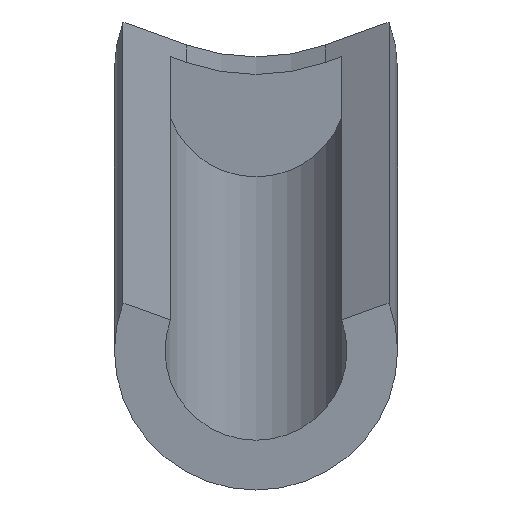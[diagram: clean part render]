
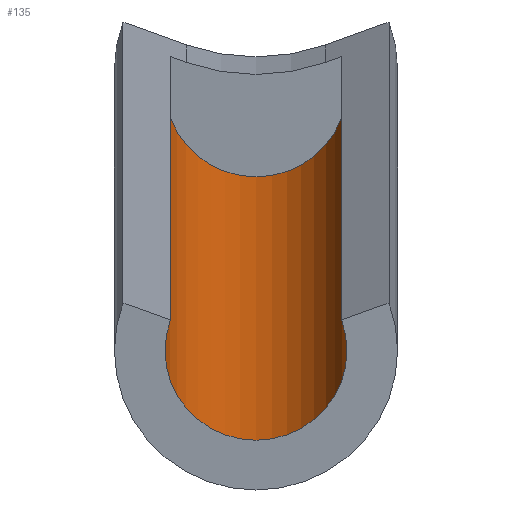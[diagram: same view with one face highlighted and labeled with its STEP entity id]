
A CAD part, left-side view. The second image highlights one B-rep face of the part: STEP entity #135.
In plain terms, the highlighted cylindrical face has radius 4.5 mm (diameter 9 mm), a partial arc.
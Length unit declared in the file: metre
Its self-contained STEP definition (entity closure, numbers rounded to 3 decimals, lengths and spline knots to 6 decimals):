
#14=CIRCLE('',#159,0.0045);
#15=CIRCLE('',#160,0.0045);
#19=CYLINDRICAL_SURFACE('',#158,0.0045);
#37=ORIENTED_EDGE('',*,*,#71,.F.);
#38=ORIENTED_EDGE('',*,*,#70,.T.);
#39=ORIENTED_EDGE('',*,*,#72,.F.);
#40=ORIENTED_EDGE('',*,*,#60,.F.);
#60=EDGE_CURVE('',#78,#79,#90,.T.);
#70=EDGE_CURVE('',#84,#86,#98,.T.);
#71=EDGE_CURVE('',#84,#78,#14,.T.);
#72=EDGE_CURVE('',#79,#86,#15,.F.);
#78=VERTEX_POINT('',#217);
#79=VERTEX_POINT('',#219);
#84=VERTEX_POINT('',#232);
#86=VERTEX_POINT('',#237);
#90=LINE('',#218,#102);
#98=LINE('',#238,#110);
#102=VECTOR('',#174,1.);
#110=VECTOR('',#190,1.);
#114=EDGE_LOOP('',(#37,#38,#39,#40));
#122=FACE_BOUND('',#114,.T.);
#135=ADVANCED_FACE('',(#122),#19,.F.);
#158=AXIS2_PLACEMENT_3D('',#239,#191,#192);
#159=AXIS2_PLACEMENT_3D('',#240,#193,#194);
#160=AXIS2_PLACEMENT_3D('',#241,#195,#196);
#174=DIRECTION('',(-0.985,0.,-0.174));
#190=DIRECTION('',(-0.985,0.,-0.174));
#191=DIRECTION('',(-0.985,0.,-0.174));
#192=DIRECTION('',(-0.174,0.,0.985));
#193=DIRECTION('',(-0.985,0.,-0.174));
#194=DIRECTION('',(-0.174,0.,0.985));
#195=DIRECTION('',(-0.985,0.,-0.174));
#196=DIRECTION('',(-0.059,0.94,0.337));
#217=CARTESIAN_POINT('',(-0.353655,0.111133,0.005857));
#218=CARTESIAN_POINT('',(-0.348731,0.111133,0.006725));
#219=CARTESIAN_POINT('',(-0.427515,0.111133,-0.007167));
#232=CARTESIAN_POINT('',(-0.353655,0.119591,0.005857));
#237=CARTESIAN_POINT('',(-0.427515,0.119591,-0.007167));
#238=CARTESIAN_POINT('',(-0.348731,0.119591,0.006725));
#239=CARTESIAN_POINT('',(-0.348463,0.115362,0.00521));
#240=CARTESIAN_POINT('',(-0.353387,0.115362,0.004341));
#241=CARTESIAN_POINT('',(-0.427248,0.115362,-0.008682));
